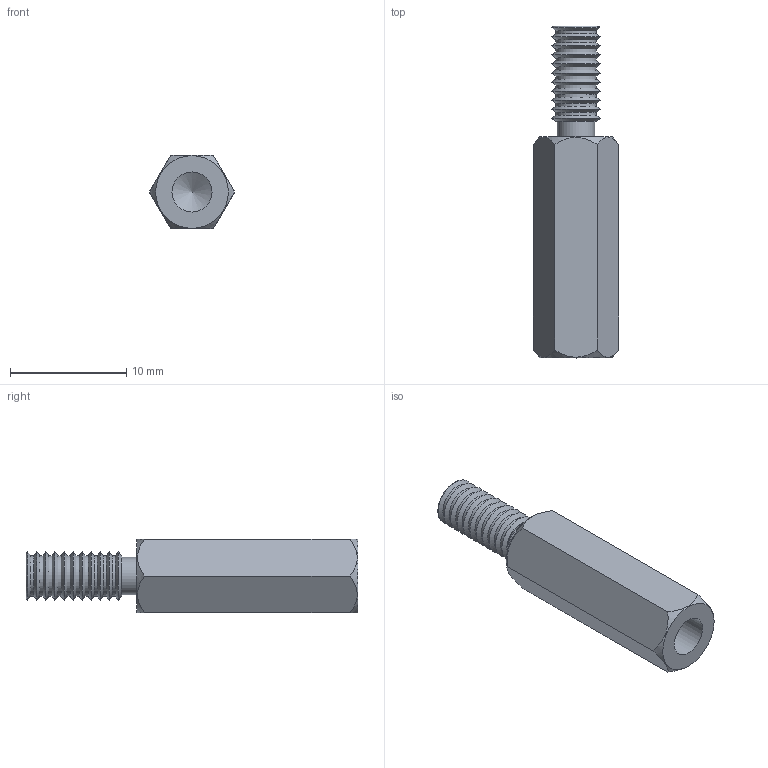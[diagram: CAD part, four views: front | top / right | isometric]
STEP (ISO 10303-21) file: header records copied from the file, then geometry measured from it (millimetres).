
FILE_DESCRIPTION (( 'STEP AP214' ), '1' );
FILE_NAME ('23656r1.STEP', '2011-07-11T14:17:16', ( 'Vicor User' ), ( 'Microsoft' ), 'SwSTEP 2.0', 'SolidWorks 2010', '' );
FILE_SCHEMA (( 'AUTOMOTIVE_DESIGN' ));
Length unit declared in the file: inch
Products named in the file (1): 23656r1
Bounding box: 7.33 x 28.57 x 6.35 mm (x, y, z)
Volume: 654.4 mm3; surface area: 765.2 mm2
Topology: 1 solids, 1 shells, 48 faces, 102 edges, 58 vertices
Faces by surface type: cone 24, cylinder 13, plane 10, torus 1
Full cylindrical faces by diameter (mm): 3.2 x1, 3.454 x12
Entity records: 1207 total; most frequent: CARTESIAN_POINT 315, DIRECTION 184, ORIENTED_EDGE 116, AXIS2_PLACEMENT_3D 89, EDGE_LOOP 88, FACE_OUTER_BOUND 62, EDGE_CURVE 58, VERTEX_POINT 52
